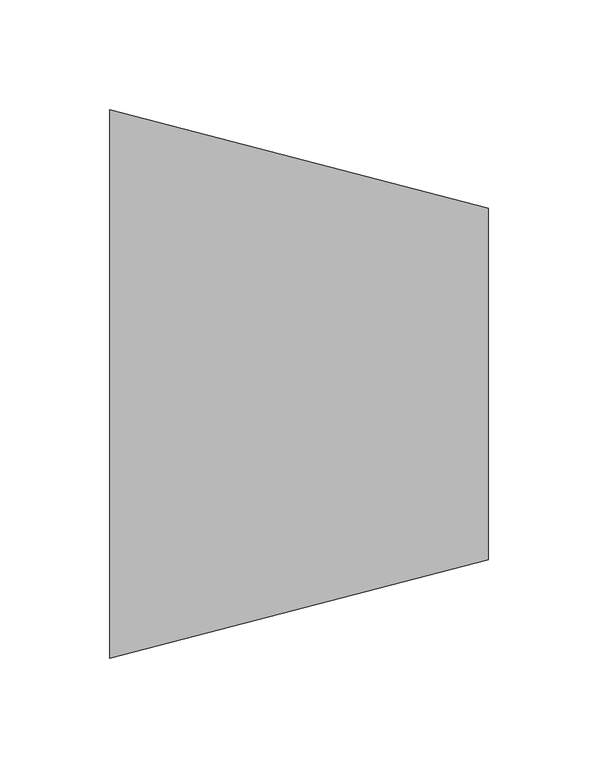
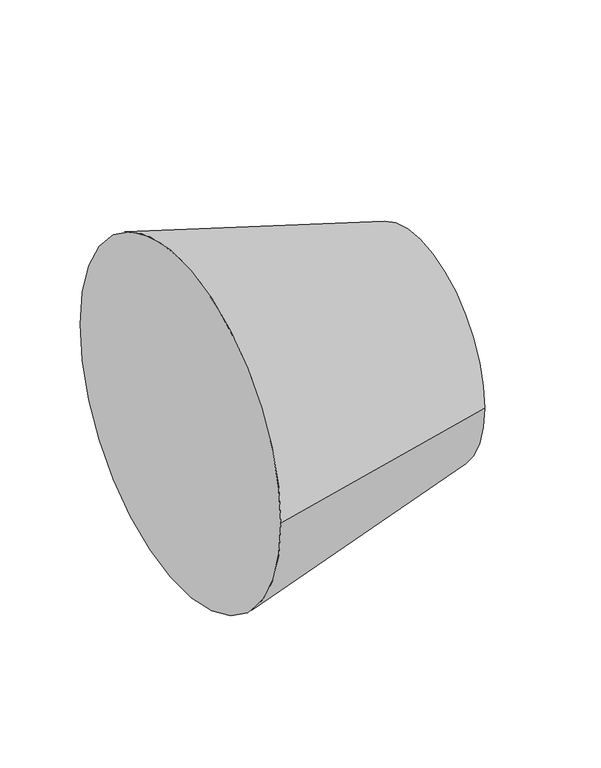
"""IFC4 building model written with IfcOpenShell, lengths in millimetres: pipe fitting geometry, Reduccion  Soldadura a Tope SDR 11  BluePipe - 250 : Estándar."""

from ifc_helpers import new_model, si_unit, frame, origin, place, context, project, spatial, polyline, circle_curve, source, transform, mapped, element, save
from ifc_brep_helpers import plane_surface, revolved_surface, advanced_brep


def pipe_fitting_bdedf2e9(model_context):
    return source(origin(), model_context, "Body", "AdvancedBrep", [
        advanced_brep(
        [(172.5, -80.0, 0.0), (172.5, 80.0, 0.0), (0.0, -125.0, 0.0), (0.0, 125.0, 0.0)],
        [
            (0, 1, circle_curve(frame((172.5, 0.0, 0.0), z_axis=(1.0, 0.0, 0.0), x_axis=(0.0, -1.0, 0.0)), 80.0)),
            (1, 0, circle_curve(frame((172.5, 0.0, 0.0), z_axis=(1.0, 0.0, 0.0), x_axis=(0.0, 1.0, 0.0)), 80.0)),
            (2, 3, circle_curve(frame((0.0, 0.0, 0.0), z_axis=(-1.0, 0.0, 0.0), x_axis=(0.0, 1.0, 0.0)), 125.0)),
            (3, 2, circle_curve(frame((0.0, 0.0, 0.0), z_axis=(-1.0, 0.0, 0.0), x_axis=(0.0, -1.0, 0.0)), 125.0)),
            (3, 1),
            (0, 2),
        ],
        [
            plane_surface(frame((172.5, 0.0, 0.0), z_axis=(1.0, 0.0, 0.0), x_axis=(0.0, 0.0, -1.0))),
            plane_surface(frame((0.0, 0.0, 0.0), z_axis=(-1.0, 0.0, 0.0), x_axis=(0.0, 0.0, -1.0))),
            revolved_surface(polyline([(172.5, -80.00000000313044, 0.0), (0.0, -125.0, 0.0)]), (479.1666667, 0.0, 0.0), (-1.0, 0.0, 0.0)),
            revolved_surface(polyline([(172.5, 80.00000000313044, 0.0), (0.0, 125.0, 0.0)]), (479.1666667, 0.0, 0.0), (-1.0, 0.0, 0.0)),
        ],
        [
            (0, [[1, 2]]),
            (1, [[3, 4]]),
            (2, [[-4, 5, -1, 6]]),
            (3, [[-3, -6, -2, -5]]),
        ],
    ),
    ])


if __name__ == "__main__":
    model = new_model("IFC4")
    model_context = context("Model", 3, world=origin())
    ifc_project = project(units=[si_unit("LENGTHUNIT", "METRE", prefix="MILLI")], contexts=[model_context])
    site = spatial("IfcSite", under=ifc_project)
    building = spatial("IfcBuilding", under=site)
    placement = place(None, origin())
    pipe_fitting_shape = pipe_fitting_bdedf2e9(model_context)
    element("IfcPipeFitting", 1, ObjectType="Reduccion  Soldadura a Tope SDR 11  BluePipe - 250 : Estándar", at=placement, inside=building, context=model_context, shape_type="MappedRepresentation", body=[
        mapped(pipe_fitting_shape, transform((0.0, 0.0, 0.0), x_axis=(1.0, 0.0, 0.0), y_axis=(0.0, 1.0, 0.0), z_axis=(0.0, 0.0, 1.0))),
    ])
    save(model, "model.ifc")
